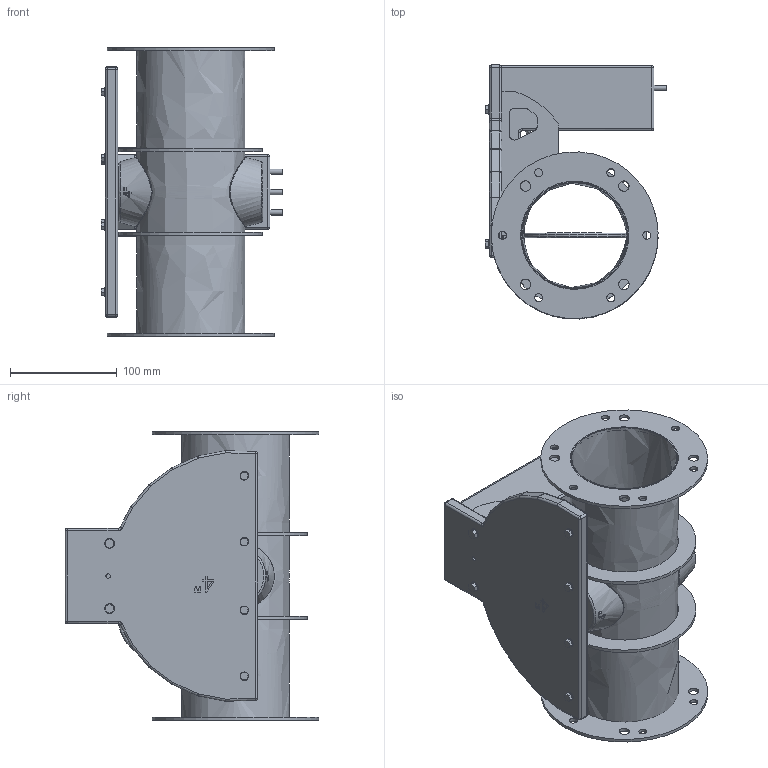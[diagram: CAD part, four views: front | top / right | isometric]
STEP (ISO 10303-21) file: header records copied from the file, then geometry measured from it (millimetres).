
FILE_DESCRIPTION( ('This file contains a STEP AP42 implementation' ,'as created by ZW3D STEP Interface translator.') ,'2;1' );
FILE_NAME( '3D Model-04_2M0 Butterfly Body with drive.stp' ,'201125. 914 6', (''), ('ZWCAD Software Co.'), 'Version 1.0', 'ZW3D to STEP translator', '' );
FILE_SCHEMA(('AUTOMOTIVE_DESIGN'));
Length unit declared in the file: millimetre
Products named in the file (1): 0
Bounding box: 169.8 x 237.33 x 270 mm (x, y, z)
Volume: 1338999.9 mm3; surface area: 416500.6 mm2
Topology: 9 solids, 11 shells, 809 faces, 2011 edges, 1294 vertices
Faces by surface type: bspline 809
Entity records: 29933 total; most frequent: CARTESIAN_POINT 16897, ORIENTED_EDGE 4006, EDGE_CURVE 2003, B_SPLINE_CURVE_WITH_KNOTS 1559, VERTEX_POINT 1288, EDGE_LOOP 943, FACE_OUTER_BOUND 809, ADVANCED_FACE 809
